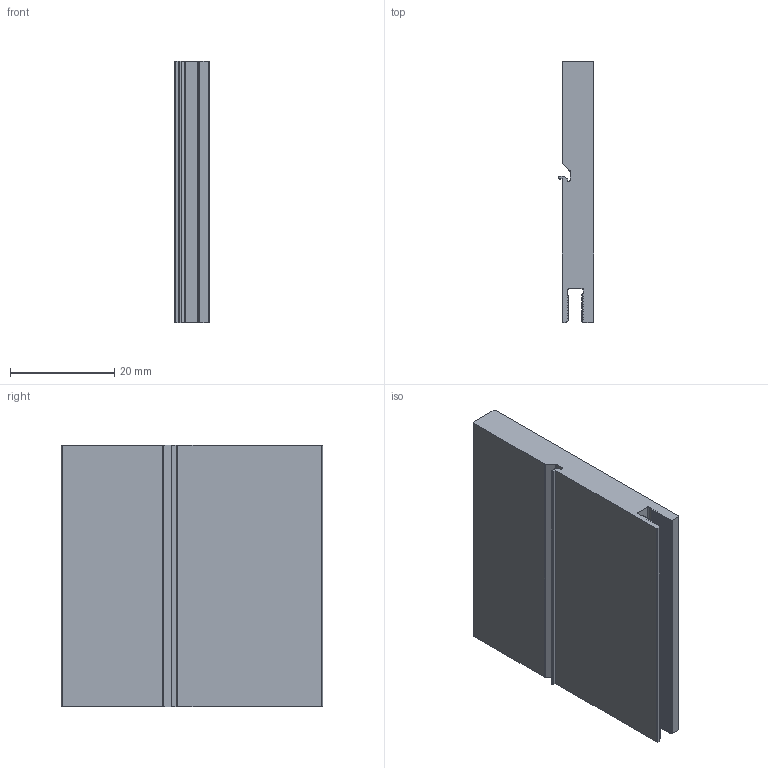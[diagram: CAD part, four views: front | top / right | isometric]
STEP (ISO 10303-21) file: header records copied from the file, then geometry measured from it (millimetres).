
FILE_DESCRIPTION (( 'STEP AP203' ), '1' );
FILE_NAME ('PR 101-50.step', '2002-10-20T23:14:24', ( 'Wolfgang Müller' ), ( 'DPS' ), 'SwSTEP 2.0', 'SolidWorks 2002264', '' );
FILE_SCHEMA (( 'CONFIG_CONTROL_DESIGN' ));
Length unit declared in the file: millimetre
Products named in the file (1): PR 101-50
Bounding box: 6.75 x 50 x 50 mm (x, y, z)
Volume: 13953.4 mm3; surface area: 7314.5 mm2
Topology: 1 solids, 1 shells, 128 faces, 378 edges, 252 vertices
Faces by surface type: plane 79, cylinder 49
Entity records: 4357 total; most frequent: CARTESIAN_POINT 759, ORIENTED_EDGE 756, DIRECTION 734, EDGE_CURVE 378, LINE 280, VECTOR 280, VERTEX_POINT 252, AXIS2_PLACEMENT_3D 227
